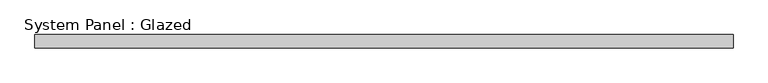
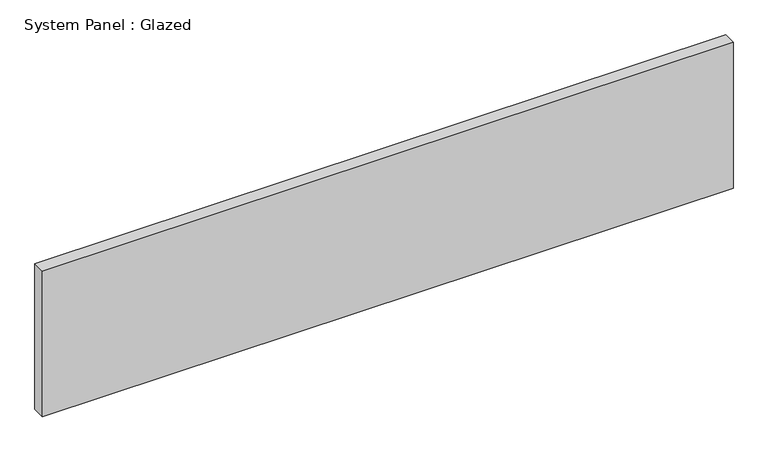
"""IFC4 building model written with IfcOpenShell, lengths in millimetres: plate geometry, System Panel : Glazed."""

from ifc_helpers import new_model, si_unit, origin, origin_with_axes, place, context, project, spatial, polyline, outline, extrude, source, transform, mapped, element, save


def system_panel_glazed_abf0406e(model_context):
    return source(origin(), model_context, "Body", "SweptSolid", [
        extrude(outline(polyline([(668.2500001, 19.05), (-668.2500001, 19.05), (-668.2500001, 44.45), (668.2500001, 44.45), (668.2500001, 19.05)])), origin_with_axes(), (0.0, 0.0, 1.0), 298.1),
    ])


if __name__ == "__main__":
    model = new_model("IFC4")
    model_context = context("Model", 3, world=origin())
    ifc_project = project(units=[si_unit("LENGTHUNIT", "METRE", prefix="MILLI")], contexts=[model_context])
    site = spatial("IfcSite", under=ifc_project)
    building = spatial("IfcBuilding", under=site)
    placement = place(None, origin())
    system_panel_glazed_shape = system_panel_glazed_abf0406e(model_context)
    element("IfcPlate", 1, ObjectType="System Panel : Glazed", at=placement, inside=building, context=model_context, shape_type="MappedRepresentation", body=[
        mapped(system_panel_glazed_shape, transform((0.0, 0.0, 0.0), x_axis=(1.0, 0.0, 0.0), y_axis=(0.0, 1.0, 0.0), z_axis=(0.0, 0.0, 1.0))),
    ])
    save(model, "model.ifc")
